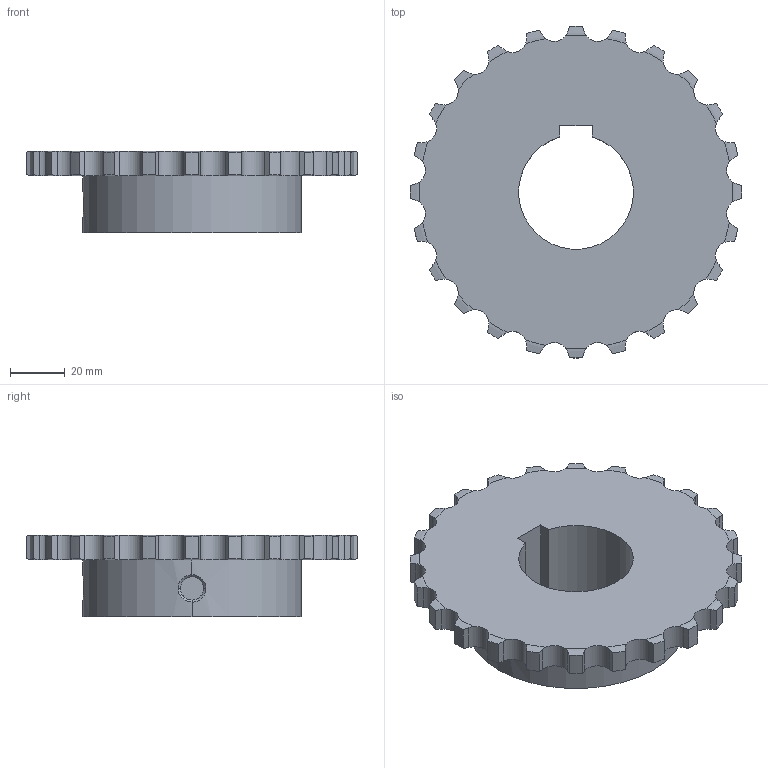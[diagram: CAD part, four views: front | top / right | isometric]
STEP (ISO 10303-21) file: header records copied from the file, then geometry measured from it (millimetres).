
FILE_DESCRIPTION((''),'2;1');
FILE_NAME('510-301-4224_PRT','2021-02-13T',('Brieden'),('Brieden'),'PRO/ENGINEER BY PARAMETRIC TECHNOLOGY CORPORATION, 2010160','PRO/ENGINEER BY PARAMETRIC TECHNOLOGY CORPORATION, 2010160','');
FILE_SCHEMA(('AUTOMOTIVE_DESIGN { 1 0 10303 214 1 1 1 1 }'));
Length unit declared in the file: millimetre
Products named in the file (1): 510-301-4224_PRT
Bounding box: 121.61 x 121.61 x 30 mm (x, y, z)
Volume: 157218.7 mm3; surface area: 32919.5 mm2
Topology: 1 solids, 1 shells, 165 faces, 477 edges, 316 vertices
Faces by surface type: cylinder 103, torus 48, plane 8, bspline 6
Entity records: 8168 total; most frequent: CARTESIAN_POINT 2593, ORIENTED_EDGE 954, DIRECTION 745, PRESENTATION_STYLE_ASSIGNMENT 478, STYLED_ITEM 478, CURVE_STYLE 477, EDGE_CURVE 477, VERTEX_POINT 316
